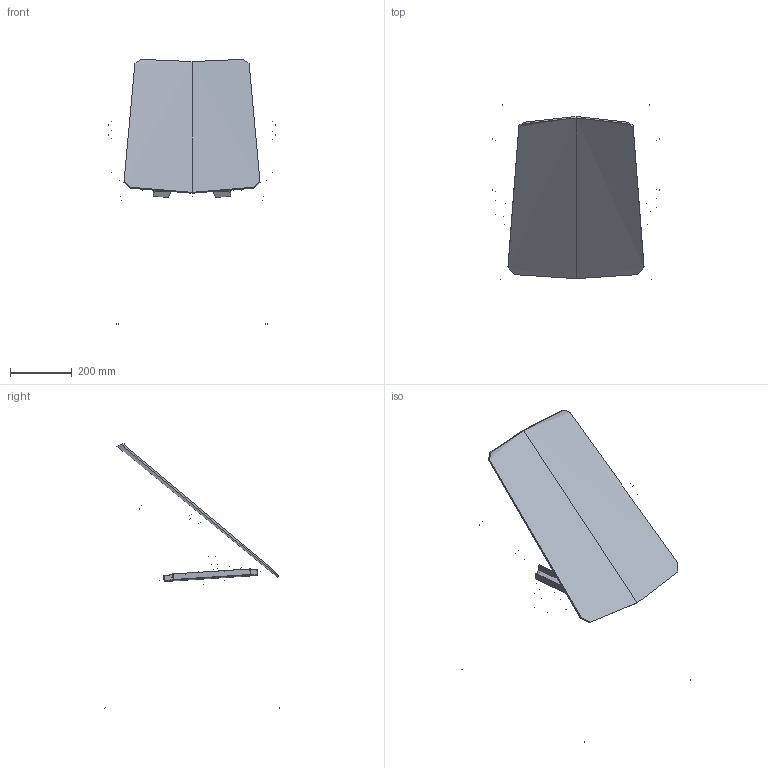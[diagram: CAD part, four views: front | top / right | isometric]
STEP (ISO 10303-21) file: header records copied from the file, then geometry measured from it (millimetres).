
FILE_DESCRIPTION(/* description */ (''),/* implementation_level */ '2;1');
FILE_NAME(/* name */ 'Evo 010 -BR',/* time_stamp */ '2023-02-03T18:58:28+01:00',/* author */ (''),/* organization */ (''),/* preprocessor_version */ 'ST-DEVELOPER v16.5',/* originating_system */ 'Rhino 7.26',/* authorisation */ '');
FILE_SCHEMA (('CONFIG_CONTROL_DESIGN'));
Length unit declared in the file: millimetre
Products named in the file (1): Document
Bounding box: 540 x 569.47 x 862.02 mm (x, y, z)
Volume: 249489.7 mm3; surface area: 1153160.1 mm2
Topology: 4 solids, 20 shells, 90 faces, 192 edges, 120 vertices
Faces by surface type: bspline 40, plane 28, cylinder 22
Full cylindrical faces by diameter (mm): 18 x8, 22 x12, 24 x2
Entity records: 5997 total; most frequent: CARTESIAN_POINT 4666, ORIENTED_EDGE 348, EDGE_CURVE 188, VERTEX_POINT 116, B_SPLINE_CURVE_WITH_KNOTS 94, ADVANCED_FACE 90, FACE_OUTER_BOUND 90, EDGE_LOOP 90
